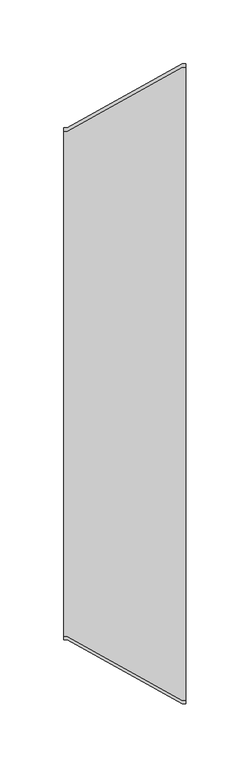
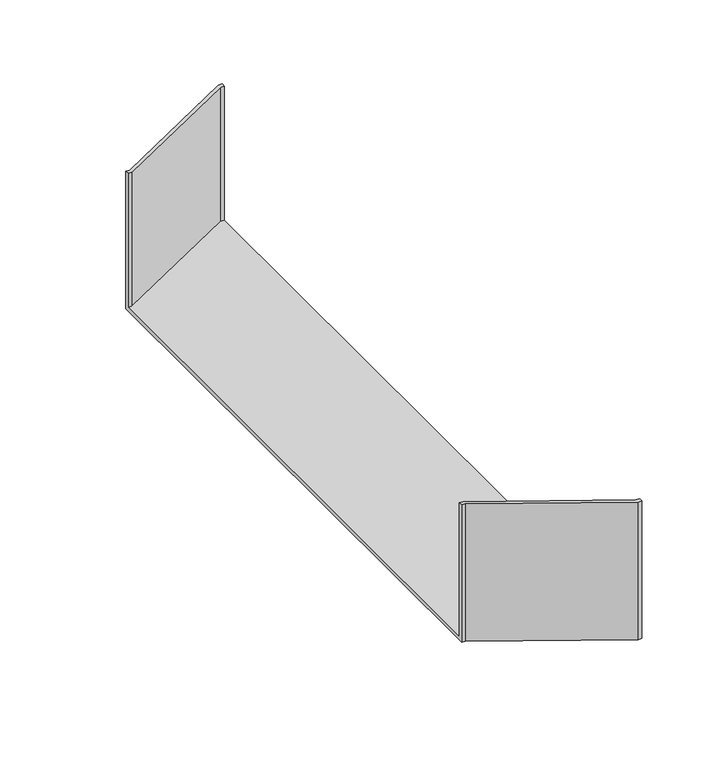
"""IFC4 building model written with IfcOpenShell, lengths in millimetres: cable carrier fitting geometry, BAKS_Reducer : RK(S/L/P)J_H100."""

from ifc_helpers import new_model, si_unit, origin, place, context, project, spatial, faceted_brep, source, transform, mapped, element, save


def cable_carrier_fitting_a285f0eb(model_context):
    return source(origin(), model_context, "Body", "Brep", [
        faceted_brep([(0.0, -200.0, -50.0), (0.0, -200.0, 50.0), (0.0, -197.46, 50.0), (0.0, -197.46, -47.46), (0.0, 197.46, -47.46), (0.0, 197.46, 50.0), (0.0, 200.0, 50.0), (0.0, 200.0, -50.0), (95.0, -250.0, -50.0), (95.0, 250.0, -50.0), (95.0, 250.0, 50.0), (95.0, 247.46, 50.0), (95.0, 247.46, -47.46), (95.0, -247.46, -47.46), (95.0, -247.46, 50.0), (95.0, -250.0, 50.0), (2.5, -200.0, -50.0), (2.5, -200.0, 50.0), (92.5, -250.0, 50.0), (92.5, -247.46, 50.0), (2.5, -197.46, 50.0), (2.5, -197.46, -47.46), (92.5, -247.46, -47.46), (92.5, 247.46, -47.46), (2.5, 197.46, -47.46), (2.5, 197.46, 50.0), (92.5, 247.46, 50.0), (92.5, 250.0, 50.0), (2.5, 200.0, 50.0), (2.5, 200.0, -50.0), (92.5, 250.0, -50.0), (92.5, -250.0, -50.0)], [[[0, 1, 2, 3, 4, 5, 6, 7]], [[8, 9, 10, 11, 12, 13, 14, 15]], [[1, 0, 16, 17]], [[2, 1, 17, 18, 15, 14, 19, 20]], [[3, 2, 20, 21]], [[4, 3, 21, 22, 13, 12, 23, 24]], [[5, 4, 24, 25]], [[6, 5, 25, 26, 11, 10, 27, 28]], [[7, 6, 28, 29]], [[0, 7, 29, 30, 9, 8, 31, 16]], [[8, 15, 18, 31]], [[14, 13, 22, 19]], [[12, 11, 26, 23]], [[10, 9, 30, 27]], [[30, 29, 28, 27]], [[26, 25, 24, 23]], [[22, 21, 20, 19]], [[16, 31, 18, 17]]]),
    ])


if __name__ == "__main__":
    model = new_model("IFC4")
    model_context = context("Model", 3, world=origin())
    ifc_project = project(units=[si_unit("LENGTHUNIT", "METRE", prefix="MILLI")], contexts=[model_context])
    site = spatial("IfcSite", under=ifc_project)
    building = spatial("IfcBuilding", under=site)
    placement = place(None, origin())
    cable_carrier_fitting_shape = cable_carrier_fitting_a285f0eb(model_context)
    element("IfcCableCarrierFitting", 1, ObjectType="BAKS_Reducer : RK(S/L/P)J_H100", at=placement, inside=building, context=model_context, shape_type="MappedRepresentation", body=[
        mapped(cable_carrier_fitting_shape, transform((0.0, 0.0, 0.0), x_axis=(1.0, 0.0, 0.0), y_axis=(0.0, 1.0, 0.0), z_axis=(0.0, 0.0, 1.0))),
    ])
    save(model, "model.ifc")
